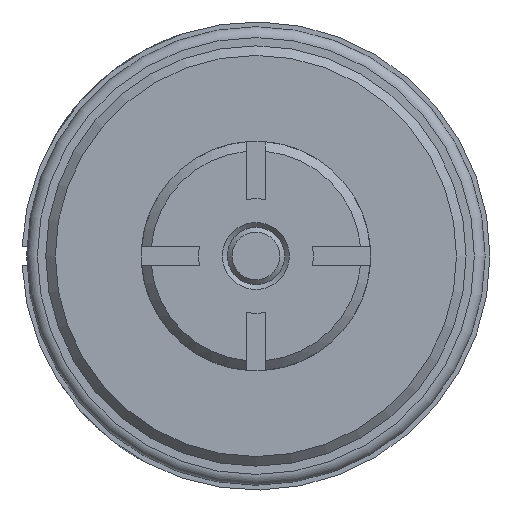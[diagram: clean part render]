
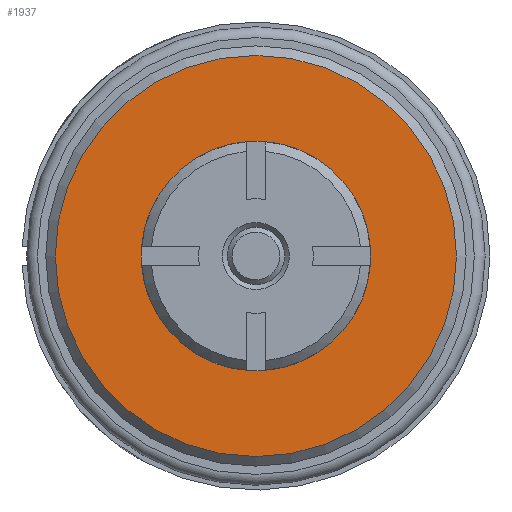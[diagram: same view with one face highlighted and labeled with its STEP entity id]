
A CAD part, left-side view. The second image highlights one B-rep face of the part: STEP entity #1937.
In plain terms, the highlighted planar face has unit normal (-1, 0, 0).
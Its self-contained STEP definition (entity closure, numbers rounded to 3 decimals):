
#134=PLANE('',#2216);
#812=ORIENTED_EDGE('',*,*,#1062,.T.);
#813=ORIENTED_EDGE('',*,*,#1063,.T.);
#1062=EDGE_CURVE('',#1240,#1240,#1378,.T.);
#1063=EDGE_CURVE('',#1241,#1241,#1379,.T.);
#1240=VERTEX_POINT('',#3440);
#1241=VERTEX_POINT('',#3443);
#1378=CIRCLE('',#2215,6.);
#1379=CIRCLE('',#2217,10.5);
#1577=EDGE_LOOP('',(#812));
#1578=EDGE_LOOP('',(#813));
#1783=FACE_BOUND('',#1577,.T.);
#1784=FACE_BOUND('',#1578,.T.);
#1937=ADVANCED_FACE('',(#1783,#1784),#134,.T.);
#2215=AXIS2_PLACEMENT_3D('',#3439,#2848,#2849);
#2216=AXIS2_PLACEMENT_3D('',#3441,#2850,#2851);
#2217=AXIS2_PLACEMENT_3D('',#3442,#2852,#2853);
#2848=DIRECTION('',(1.,0.,0.));
#2849=DIRECTION('',(0.,0.,1.));
#2850=DIRECTION('',(-1.,0.,0.));
#2851=DIRECTION('',(0.,0.,-1.));
#2852=DIRECTION('',(-1.,0.,0.));
#2853=DIRECTION('',(0.,0.,-1.));
#3439=CARTESIAN_POINT('',(-15.97,0.,0.));
#3440=CARTESIAN_POINT('',(-15.97,0.,6.));
#3441=CARTESIAN_POINT('',(-15.97,0.,11.));
#3442=CARTESIAN_POINT('',(-15.97,0.,0.));
#3443=CARTESIAN_POINT('',(-15.97,0.,-10.5));
